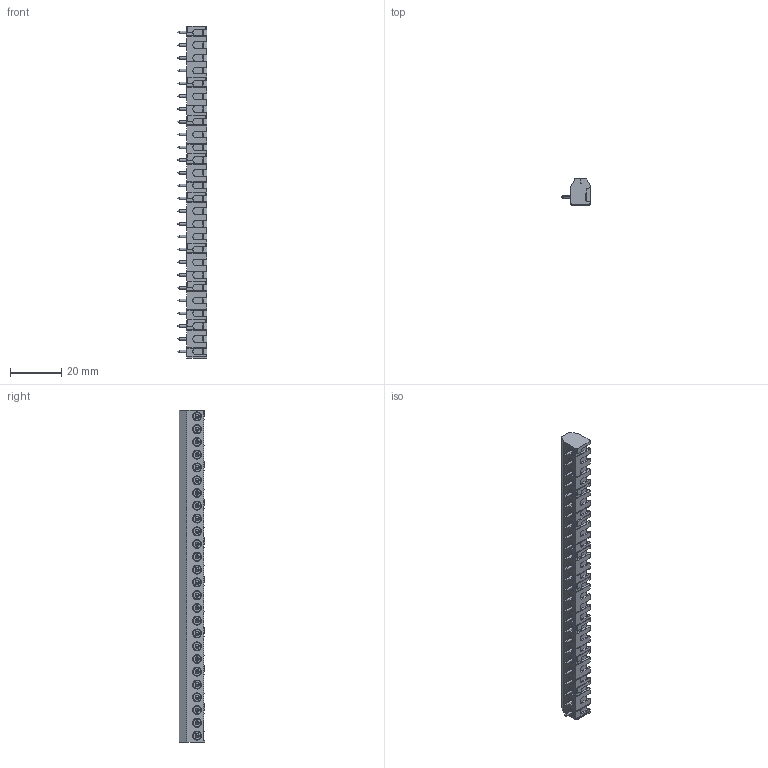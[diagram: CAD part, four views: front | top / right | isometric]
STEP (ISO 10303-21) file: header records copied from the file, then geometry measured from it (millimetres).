
FILE_DESCRIPTION (( 'STEP AP214' ), '1' );
FILE_NAME ('951-DS-26.STEP', '2008-03-11T03:50:55', ( ' ' ), ( '' ), 'SwSTEP 2.0', 'SolidWorks 2007', '' );
FILE_SCHEMA (( 'AUTOMOTIVE_DESIGN' ));
Length unit declared in the file: millimetre
Products named in the file (1): 951-DS-26
Bounding box: 11.7 x 10 x 130 mm (x, y, z)
Volume: 7852.6 mm3; surface area: 7518.6 mm2
Topology: 1 solids, 1 shells, 2038 faces, 6322 edges, 4156 vertices
Faces by surface type: plane 1328, cylinder 502, cone 104, bspline 104
Entity records: 76147 total; most frequent: CARTESIAN_POINT 20173, ORIENTED_EDGE 12644, DIRECTION 10834, EDGE_CURVE 6322, VERTEX_POINT 4156, VECTOR 3992, LINE 3992, AXIS2_PLACEMENT_3D 3421
